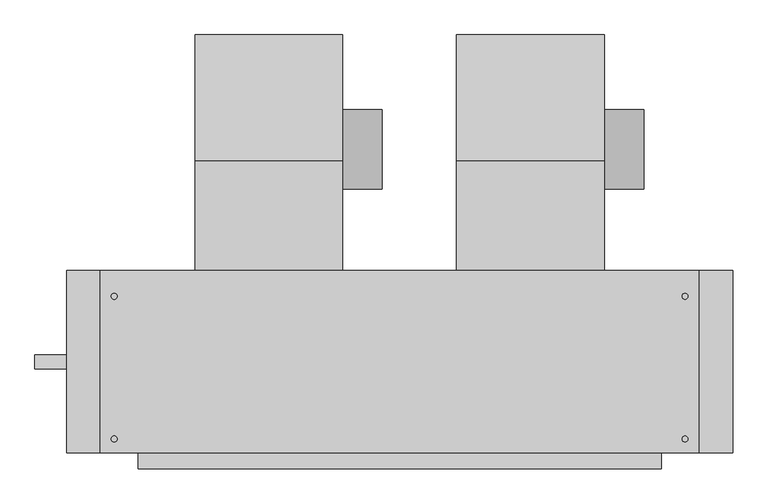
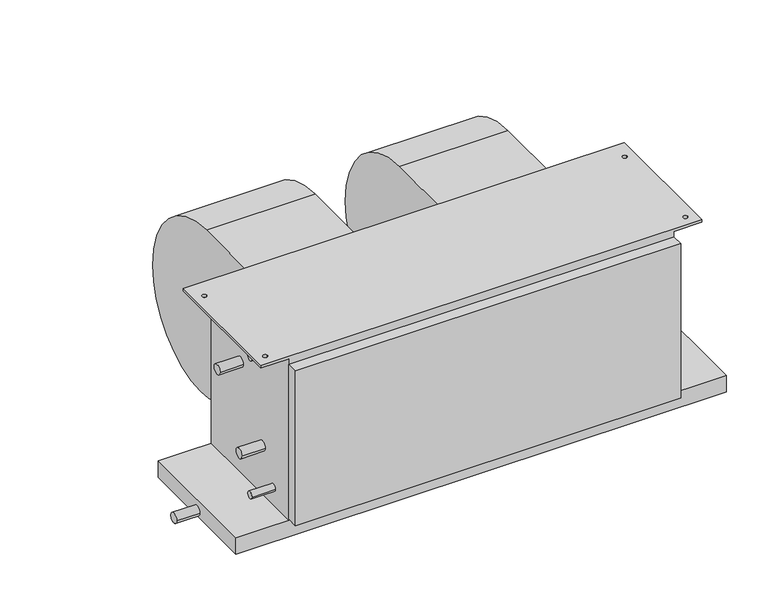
"""IFC4 building model written with IfcOpenShell, lengths in millimetres: proxy geometry, Concealed_High_Capacity_Horizontal_Fan_Coil_Unit_-_42DAA_-_CARRIER_-_4-Pipe_LH_2022 : Size 14 - 277v/60Hz/1Ph - 6/2 Coil."""

from ifc_helpers import new_model, si_unit, point, frame, frame_2d, origin, place, context, project, spatial, polyline, circle_curve, trimmed, segment, composite_curve, outline, extrude, source, transform, mapped, element, save
from ifc_brep_helpers import plane_surface, cylinder_surface, revolved_surface, advanced_brep


def mechanical_equipment_1806666c(model_context):
    return source(origin(), model_context, "Body", "SolidModel", [
        extrude(outline(composite_curve([segment(trimmed(circle_curve(frame_2d((117.8757598, -213.2397468)), 63.5), [point((181.3757598, -213.2397468))], [point((54.3757598, -213.2397468))], False, "CARTESIAN"), True, "CONTINUOUS"), segment(trimmed(circle_curve(frame_2d((117.8757598, -213.2397468)), 63.5), [point((54.3757598, -213.2397468))], [point((181.3757598, -213.2397468))], False, "CARTESIAN"), True, "CONTINUOUS")], self_intersect=False)), frame((188.087, 0.0, 0.0), z_axis=(1.0, 0.0, 0.0), x_axis=(0.0, 1.0, 0.0)), (0.0, 0.0, 1.0), 63.5),
        advanced_brep(
        [(-48.387, 301.3905957, -228.379602), (-48.387, 120.4976, -409.99664), (-48.387, -35.0266, -283.45638), (-48.387, -76.2, -283.45638), (-48.387, -76.2, -25.4), (-48.387, 98.8830093, -25.4), (188.087, 301.3905957, -228.379602), (188.087, 98.8830093, -25.4), (188.087, -76.2, -25.4), (188.087, -76.2, -283.45638), (188.087, -35.0266, -283.45638), (188.087, 120.497599, -409.9957839)],
        [
            (0, 1, circle_curve(frame((-48.387, 120.31726, -228.92258), z_axis=(-1.0, 0.0, 0.0), x_axis=(0.0, -1.0, 0.0)), 181.0741498)),
            (1, 2, circle_curve(frame((-48.387, 120.31726, -251.37364), z_axis=(-1.0, 0.0, 0.0), x_axis=(0.0, -1.0, 0.0)), 158.6222464)),
            (2, 3),
            (3, 4),
            (4, 5),
            (5, 0, circle_curve(frame((-48.387, 97.8662, -228.92258), z_axis=(-1.0, 0.0, 0.0), x_axis=(0.0, -1.0, 0.0)), 203.52512)),
            (6, 7, circle_curve(frame((188.087, 97.8662, -228.92258), z_axis=(1.0, 0.0, 0.0), x_axis=(0.0, -1.0, 0.0)), 203.52512)),
            (7, 8),
            (8, 9),
            (9, 10),
            (10, 11, circle_curve(frame((188.087, 120.31726, -251.37364), z_axis=(1.0, 0.0, 0.0), x_axis=(0.0, -1.0, 0.0)), 158.6222464)),
            (11, 6, circle_curve(frame((188.087, 120.31726, -228.92258), z_axis=(1.0, 0.0, 0.0), x_axis=(0.0, -1.0, 0.0)), 181.0741498)),
            (0, 6),
            (11, 1),
            (10, 2),
            (9, 3),
            (8, 4),
            (7, 5),
        ],
        [
            plane_surface(frame((-48.387, -60.7568898, -228.92258), z_axis=(-1.0, 0.0, 0.0), x_axis=(0.0, 0.0, 1.0))),
            plane_surface(frame((188.087, -60.7568898, -228.92258), z_axis=(1.0, 0.0, 0.0), x_axis=(0.0, 0.0, -1.0))),
            cylinder_surface(frame((188.087, 120.31726, -228.92258), z_axis=(-1.0, 0.0, 0.0), x_axis=(0.0, -1.0, 0.0)), 181.0741498),
            cylinder_surface(frame((188.087, 120.31726, -251.37364), z_axis=(-1.0, 0.0, 0.0), x_axis=(0.0, -1.0, 0.0)), 158.6222464),
            plane_surface(frame((-48.387, -35.0266, -283.45638), z_axis=(0.0, 0.0, -1.0), x_axis=(1.0, 0.0, 0.0))),
            plane_surface(frame((-48.387, -76.2, -283.45638), z_axis=(0.0, -1.0, 0.0), x_axis=(1.0, 0.0, 0.0))),
            plane_surface(frame((-48.387, -76.2, -25.4), z_axis=(0.0, 0.0, 1.0), x_axis=(1.0, 0.0, 0.0))),
            cylinder_surface(frame((188.087, 97.8662, -228.92258), z_axis=(-1.0, 0.0, 0.0), x_axis=(0.0, -1.0, 0.0)), 203.52512),
        ],
        [
            (0, [[1, 2, 3, 4, 5, 6]]),
            (1, [[7, 8, 9, 10, 11, 12]]),
            (2, [[-1, 13, -12, 14]]),
            (3, [[-2, -14, -11, 15]]),
            (4, [[-3, -15, -10, 16]]),
            (5, [[-4, -16, -9, 17]]),
            (6, [[-5, -17, -8, 18]]),
            (7, [[-6, -18, -7, -13]]),
        ],
    ),
        extrude(outline(composite_curve([segment(trimmed(circle_curve(frame_2d((117.8757598, -213.2397468)), 63.5), [point((181.3757598, -213.2397468))], [point((54.3757598, -213.2397468))], False, "CARTESIAN"), True, "CONTINUOUS"), segment(trimmed(circle_curve(frame_2d((117.8757598, -213.2397468)), 63.5), [point((54.3757598, -213.2397468))], [point((181.3757598, -213.2397468))], False, "CARTESIAN"), True, "CONTINUOUS")], self_intersect=False)), frame((607.187, 0.0, 0.0), z_axis=(1.0, 0.0, 0.0), x_axis=(0.0, 1.0, 0.0)), (0.0, 0.0, 1.0), 63.5),
        advanced_brep(
        [(370.713, 301.3905957, -228.379602), (370.713, 120.4976, -409.99664), (370.713, -35.0266, -283.45638), (370.713, -76.2, -283.45638), (370.713, -76.2, -25.4), (370.713, 98.8830093, -25.4), (607.187, 301.3905957, -228.379602), (607.187, 98.8830093, -25.4), (607.187, -76.2, -25.4), (607.187, -76.2, -283.45638), (607.187, -35.0266, -283.45638), (607.187, 120.497599, -409.9957839)],
        [
            (0, 1, circle_curve(frame((370.713, 120.31726, -228.92258), z_axis=(-1.0, 0.0, 0.0), x_axis=(0.0, -1.0, 0.0)), 181.0741498)),
            (1, 2, circle_curve(frame((370.713, 120.31726, -251.37364), z_axis=(-1.0, 0.0, 0.0), x_axis=(0.0, -1.0, 0.0)), 158.6222464)),
            (2, 3),
            (3, 4),
            (4, 5),
            (5, 0, circle_curve(frame((370.713, 97.8662, -228.92258), z_axis=(-1.0, 0.0, 0.0), x_axis=(0.0, -1.0, 0.0)), 203.52512)),
            (6, 7, circle_curve(frame((607.187, 97.8662, -228.92258), z_axis=(1.0, 0.0, 0.0), x_axis=(0.0, -1.0, 0.0)), 203.52512)),
            (7, 8),
            (8, 9),
            (9, 10),
            (10, 11, circle_curve(frame((607.187, 120.31726, -251.37364), z_axis=(1.0, 0.0, 0.0), x_axis=(0.0, -1.0, 0.0)), 158.6222464)),
            (11, 6, circle_curve(frame((607.187, 120.31726, -228.92258), z_axis=(1.0, 0.0, 0.0), x_axis=(0.0, -1.0, 0.0)), 181.0741498)),
            (0, 6),
            (11, 1),
            (10, 2),
            (9, 3),
            (8, 4),
            (7, 5),
        ],
        [
            plane_surface(frame((370.713, -60.7568898, -228.92258), z_axis=(-1.0, 0.0, 0.0), x_axis=(0.0, 0.0, 1.0))),
            plane_surface(frame((607.187, -60.7568898, -228.92258), z_axis=(1.0, 0.0, 0.0), x_axis=(0.0, 0.0, -1.0))),
            cylinder_surface(frame((607.187, 120.31726, -228.92258), z_axis=(-1.0, 0.0, 0.0), x_axis=(0.0, -1.0, 0.0)), 181.0741498),
            cylinder_surface(frame((607.187, 120.31726, -251.37364), z_axis=(-1.0, 0.0, 0.0), x_axis=(0.0, -1.0, 0.0)), 158.6222464),
            plane_surface(frame((370.713, -35.0266, -283.45638), z_axis=(0.0, 0.0, -1.0), x_axis=(1.0, 0.0, 0.0))),
            plane_surface(frame((370.713, -76.2, -283.45638), z_axis=(0.0, -1.0, 0.0), x_axis=(1.0, 0.0, 0.0))),
            plane_surface(frame((370.713, -76.2, -25.4), z_axis=(0.0, 0.0, 1.0), x_axis=(1.0, 0.0, 0.0))),
            cylinder_surface(frame((607.187, 97.8662, -228.92258), z_axis=(-1.0, 0.0, 0.0), x_axis=(0.0, -1.0, 0.0)), 203.52512),
        ],
        [
            (0, [[1, 2, 3, 4, 5, 6]]),
            (1, [[7, 8, 9, 10, 11, 12]]),
            (2, [[-1, 13, -12, 14]]),
            (3, [[-2, -14, -11, 15]]),
            (4, [[-3, -15, -10, 16]]),
            (5, [[-4, -16, -9, 17]]),
            (6, [[-5, -17, -8, 18]]),
            (7, [[-6, -18, -7, -13]]),
        ],
    ),
        extrude(outline(polyline([(812.8, -76.2), (812.8, -368.3), (-254.0, -368.3), (-254.0, -76.2), (812.8, -76.2)])), frame((0.0, 0.0, -415.925), z_axis=(0.0, 0.0, 1.0), x_axis=(1.0, 0.0, 0.0)), (0.0, 0.0, 1.0), 38.1),
        extrude(outline(polyline([(698.5, -393.7), (-139.7, -393.7), (-139.7, -368.3), (698.5, -368.3), (698.5, -393.7)])), frame((0.0, 0.0, -374.65), z_axis=(0.0, 0.0, 1.0), x_axis=(1.0, 0.0, 0.0)), (0.0, 0.0, 1.0), 355.6),
        extrude(outline(composite_curve([segment(trimmed(circle_curve(frame_2d((-222.25, -403.225)), 11.1125), [point((-233.3625, -403.225))], [point((-211.1375, -403.225))], False, "CARTESIAN"), True, "CONTINUOUS"), segment(trimmed(circle_curve(frame_2d((-222.25, -403.225)), 11.1125), [point((-211.1375, -403.225))], [point((-233.3625, -403.225))], False, "CARTESIAN"), True, "CONTINUOUS")], self_intersect=False)), frame((-304.8, 0.0, 0.0), z_axis=(1.0, 0.0, 0.0), x_axis=(0.0, 1.0, 0.0)), (0.0, 0.0, 1.0), 50.8),
        extrude(outline(composite_curve([segment(trimmed(circle_curve(frame_2d((-187.325, -122.2375)), 11.1125), [point((-198.4375, -122.2375))], [point((-176.2125, -122.2375))], False, "CARTESIAN"), True, "CONTINUOUS"), segment(trimmed(circle_curve(frame_2d((-187.325, -122.2375)), 11.1125), [point((-176.2125, -122.2375))], [point((-198.4375, -122.2375))], False, "CARTESIAN"), True, "CONTINUOUS")], self_intersect=False)), frame((-190.5, 0.0, 0.0), z_axis=(1.0, 0.0, 0.0), x_axis=(0.0, 1.0, 0.0)), (0.0, 0.0, 1.0), 50.8),
        extrude(outline(composite_curve([segment(trimmed(circle_curve(frame_2d((-269.875, -265.1125)), 11.1125), [point((-280.9875, -265.1125))], [point((-258.7625, -265.1125))], False, "CARTESIAN"), True, "CONTINUOUS"), segment(trimmed(circle_curve(frame_2d((-269.875, -265.1125)), 11.1125), [point((-258.7625, -265.1125))], [point((-280.9875, -265.1125))], False, "CARTESIAN"), True, "CONTINUOUS")], self_intersect=False)), frame((-190.5, 0.0, 0.0), z_axis=(1.0, 0.0, 0.0), x_axis=(0.0, 1.0, 0.0)), (0.0, 0.0, 1.0), 50.8),
        extrude(outline(composite_curve([segment(trimmed(circle_curve(frame_2d((-311.15, -19.05)), 7.9375), [point((-319.0875, -19.05))], [point((-303.2125, -19.05))], False, "CARTESIAN"), True, "CONTINUOUS"), segment(trimmed(circle_curve(frame_2d((-311.15, -19.05)), 7.9375), [point((-303.2125, -19.05))], [point((-319.0875, -19.05))], False, "CARTESIAN"), True, "CONTINUOUS")], self_intersect=False)), frame((-190.5, 0.0, 0.0), z_axis=(1.0, 0.0, 0.0), x_axis=(0.0, 1.0, 0.0)), (0.0, 0.0, 1.0), 50.8),
        extrude(outline(composite_curve([segment(trimmed(circle_curve(frame_2d((-311.15, -336.55)), 7.9375), [point((-319.0875, -336.55))], [point((-303.2125, -336.55))], False, "CARTESIAN"), True, "CONTINUOUS"), segment(trimmed(circle_curve(frame_2d((-311.15, -336.55)), 7.9375), [point((-303.2125, -336.55))], [point((-319.0875, -336.55))], False, "CARTESIAN"), True, "CONTINUOUS")], self_intersect=False)), frame((-190.5, 0.0, 0.0), z_axis=(1.0, 0.0, 0.0), x_axis=(0.0, 1.0, 0.0)), (0.0, 0.0, 1.0), 50.8),
        advanced_brep(
        [(698.5, -76.2, -377.825), (698.5, -368.3, -377.825), (-139.7, -368.3, -377.825), (-139.7, -76.2, -377.825), (-139.7, -368.3, -6.35), (-139.7, -76.2, -6.35), (698.5, -76.2, -6.35), (698.5, -368.3, -6.35), (-200.025, -76.2, 0.0), (-200.025, -368.3, 0.0), (758.825, -368.3, 0.0), (758.825, -76.2, 0.0), (-173.0375, -117.475, 0.0), (-182.5625, -117.475, 0.0), (-173.0375, -346.075, 0.0), (-182.5625, -346.075, 0.0), (741.3625, -117.475, 0.0), (731.8375, -117.475, 0.0), (741.3625, -346.075, 0.0), (731.8375, -346.075, 0.0), (-200.025, -76.2, -6.35), (-200.025, -368.3, -6.35), (-182.5625, -117.475, -6.35), (-173.0375, -117.475, -6.35), (-182.5625, -346.075, -6.35), (-173.0375, -346.075, -6.35), (758.825, -76.2, -6.35), (758.825, -368.3, -6.35), (731.8375, -117.475, -6.35), (741.3625, -117.475, -6.35), (731.8375, -346.075, -6.35), (741.3625, -346.075, -6.35)],
        [
            (0, 1),
            (1, 2),
            (2, 3),
            (3, 0),
            (2, 4),
            (4, 5),
            (5, 3),
            (0, 6),
            (6, 7),
            (7, 1),
            (8, 9),
            (9, 10),
            (10, 11),
            (11, 8),
            (12, 13, circle_curve(frame((-177.8, -117.475, 0.0), z_axis=(0.0, 0.0, -1.0), x_axis=(1.0, 0.0, 0.0)), 4.7625)),
            (13, 12, circle_curve(frame((-177.8, -117.475, 0.0), z_axis=(0.0, 0.0, -1.0), x_axis=(1.0, 0.0, 0.0)), 4.7625)),
            (14, 15, circle_curve(frame((-177.8, -346.075, 0.0), z_axis=(0.0, 0.0, -1.0), x_axis=(1.0, 0.0, 0.0)), 4.7625)),
            (15, 14, circle_curve(frame((-177.8, -346.075, 0.0), z_axis=(0.0, 0.0, -1.0), x_axis=(1.0, 0.0, 0.0)), 4.7625)),
            (16, 17, circle_curve(frame((736.6, -117.475, 0.0), z_axis=(0.0, 0.0, -1.0), x_axis=(1.0, 0.0, 0.0)), 4.7625)),
            (17, 16, circle_curve(frame((736.6, -117.475, 0.0), z_axis=(0.0, 0.0, -1.0), x_axis=(1.0, 0.0, 0.0)), 4.7625)),
            (18, 19, circle_curve(frame((736.6, -346.075, 0.0), z_axis=(0.0, 0.0, -1.0), x_axis=(1.0, 0.0, 0.0)), 4.7625)),
            (19, 18, circle_curve(frame((736.6, -346.075, 0.0), z_axis=(0.0, 0.0, -1.0), x_axis=(1.0, 0.0, 0.0)), 4.7625)),
            (20, 5),
            (4, 21),
            (21, 20),
            (22, 23, circle_curve(frame((-177.8, -117.475, -6.35), z_axis=(0.0, 0.0, 1.0), x_axis=(1.0, 0.0, 0.0)), 4.7625)),
            (23, 22, circle_curve(frame((-177.8, -117.475, -6.35), z_axis=(0.0, 0.0, 1.0), x_axis=(1.0, 0.0, 0.0)), 4.7625)),
            (24, 25, circle_curve(frame((-177.8, -346.075, -6.35), z_axis=(0.0, 0.0, 1.0), x_axis=(1.0, 0.0, 0.0)), 4.7625)),
            (25, 24, circle_curve(frame((-177.8, -346.075, -6.35), z_axis=(0.0, 0.0, 1.0), x_axis=(1.0, 0.0, 0.0)), 4.7625)),
            (26, 27),
            (27, 7),
            (6, 26),
            (28, 29, circle_curve(frame((736.6, -117.475, -6.35), z_axis=(0.0, 0.0, 1.0), x_axis=(1.0, 0.0, 0.0)), 4.7625)),
            (29, 28, circle_curve(frame((736.6, -117.475, -6.35), z_axis=(0.0, 0.0, 1.0), x_axis=(1.0, 0.0, 0.0)), 4.7625)),
            (30, 31, circle_curve(frame((736.6, -346.075, -6.35), z_axis=(0.0, 0.0, 1.0), x_axis=(1.0, 0.0, 0.0)), 4.7625)),
            (31, 30, circle_curve(frame((736.6, -346.075, -6.35), z_axis=(0.0, 0.0, 1.0), x_axis=(1.0, 0.0, 0.0)), 4.7625)),
            (8, 20),
            (21, 9),
            (27, 10),
            (11, 26),
            (12, 23),
            (22, 13),
            (14, 25),
            (24, 15),
            (16, 29),
            (28, 17),
            (18, 31),
            (30, 19),
        ],
        [
            plane_surface(frame((-139.7, -76.2, -377.825), z_axis=(0.0, 0.0, -1.0), x_axis=(1.0, 0.0, 0.0))),
            plane_surface(frame((-139.7, -76.2, 0.0), z_axis=(-1.0, 0.0, 0.0), x_axis=(0.0, 0.0, -1.0))),
            plane_surface(frame((698.5, -368.3, 0.0), z_axis=(1.0, 0.0, 0.0), x_axis=(0.0, 0.0, -1.0))),
            plane_surface(frame((-200.025, -76.2, 0.0), z_axis=(0.0, 0.0, 1.0), x_axis=(0.0, -1.0, 0.0))),
            plane_surface(frame((-200.025, -76.2, -6.35), z_axis=(0.0, 0.0, -1.0), x_axis=(0.0, 1.0, 0.0))),
            plane_surface(frame((-200.025, -76.2, 0.0), z_axis=(-1.0, 0.0, 0.0), x_axis=(0.0, 0.0, -1.0))),
            plane_surface(frame((-200.025, -368.3, 0.0), z_axis=(0.0, -1.0, 0.0), x_axis=(0.0, 0.0, -1.0))),
            plane_surface(frame((-139.7, -76.2, 0.0), z_axis=(0.0, 1.0, 0.0), x_axis=(0.0, 0.0, -1.0))),
            plane_surface(frame((758.825, -368.3, 0.0), z_axis=(1.0, 0.0, 0.0), x_axis=(0.0, 0.0, -1.0))),
            revolved_surface(polyline([(-173.03750000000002, -117.475, 0.0), (-173.03750000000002, -117.475, -6.35)]), (-177.8, -117.475, -6.35), (0.0, 0.0, 1.0)),
            revolved_surface(polyline([(-173.03750000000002, -346.075, 0.0), (-173.03750000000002, -346.075, -6.35)]), (-177.8, -346.075, 0.0), (0.0, 0.0, 1.0)),
            revolved_surface(polyline([(741.3625000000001, -117.475, 0.0), (741.3625000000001, -117.475, -6.35)]), (736.6, -117.475, 0.0), (0.0, 0.0, 1.0)),
            revolved_surface(polyline([(741.3625000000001, -346.075, 0.0), (741.3625000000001, -346.075, -6.35)]), (736.6, -346.075, 0.0), (0.0, 0.0, 1.0)),
        ],
        [
            (0, [[1, 2, 3, 4]]),
            (1, [[-3, 5, 6, 7]]),
            (2, [[-1, 8, 9, 10]]),
            (3, [[11, 12, 13, 14], [15, 16], [17, 18], [19, 20], [21, 22]]),
            (4, [[23, -6, 24, 25], [26, 27], [28, 29]]),
            (4, [[30, 31, -9, 32], [33, 34], [35, 36]]),
            (5, [[-11, 37, -25, 38]]),
            (6, [[-12, -38, -24, -5, -2, -10, -31, 39]]),
            (7, [[-14, 40, -32, -8, -4, -7, -23, -37]]),
            (8, [[-13, -39, -30, -40]]),
            (9, [[41, -26, 42, -15]]),
            (9, [[-41, -16, -42, -27]]),
            (10, [[43, -28, 44, -17]]),
            (10, [[-43, -18, -44, -29]]),
            (11, [[45, -33, 46, -19]]),
            (11, [[-45, -20, -46, -34]]),
            (12, [[47, -35, 48, -21]]),
            (12, [[-47, -22, -48, -36]]),
        ],
    ),
    ])


if __name__ == "__main__":
    model = new_model("IFC4")
    model_context = context("Model", 3, world=origin())
    ifc_project = project(units=[si_unit("LENGTHUNIT", "METRE", prefix="MILLI")], contexts=[model_context])
    site = spatial("IfcSite", under=ifc_project)
    building = spatial("IfcBuilding", under=site)
    placement = place(None, origin())
    mechanical_equipment_shape = mechanical_equipment_1806666c(model_context)
    element("IfcBuildingElementProxy", 1, Name="Concealed_High_Capacity_Horizontal_Fan_Coil_Unit_-_42DAA_-_CARRIER_-_4-Pipe_LH_2022 : Size 14 - 277v/60Hz/1Ph - 6/2 Coil", ObjectType="Concealed_High_Capacity_Horizontal_Fan_Coil_Unit_-_42DAA_-_CARRIER_-_4-Pipe_LH_2022 : Size 14 - 277v/60Hz/1Ph - 6/2 Coil", at=placement, inside=building, context=model_context, shape_type="MappedRepresentation", body=[
        mapped(mechanical_equipment_shape, transform((0.0, 0.0, 0.0), x_axis=(1.0, 0.0, 0.0), y_axis=(0.0, 1.0, 0.0), z_axis=(0.0, 0.0, 1.0))),
    ])
    save(model, "model.ifc")
